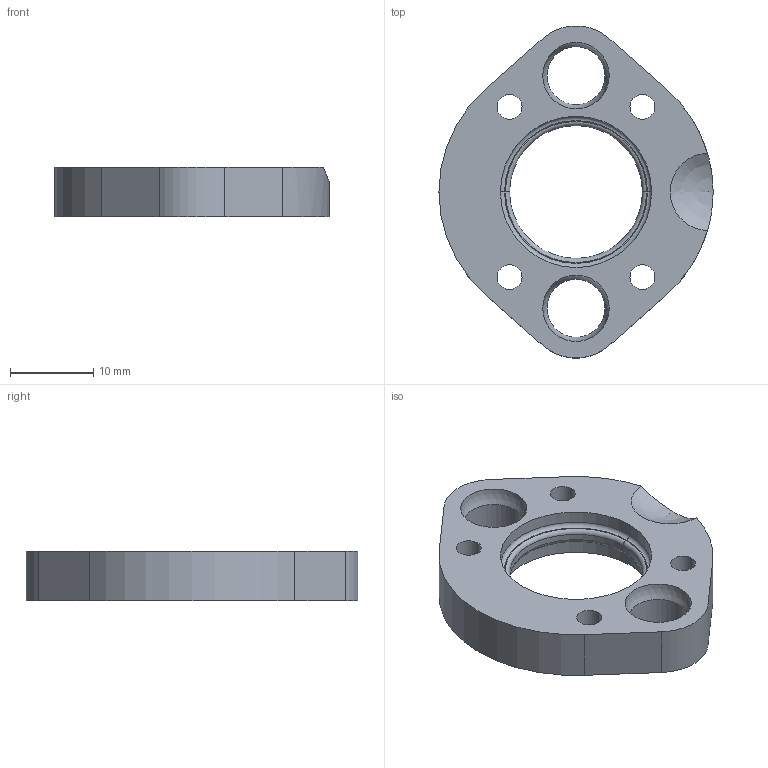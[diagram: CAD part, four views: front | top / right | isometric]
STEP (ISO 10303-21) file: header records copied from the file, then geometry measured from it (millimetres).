
FILE_DESCRIPTION (( 'STEP AP214' ), '1' );
FILE_NAME ('Ì44_ÏÌ_Äèñê ÌÓÄ.STEP', '2019-03-21T14:25:54', ( '' ), ( '' ), 'SwSTEP 2.0', 'SolidWorks 2018', '' );
FILE_SCHEMA (( 'AUTOMOTIVE_DESIGN' ));
Length unit declared in the file: millimetre
Products named in the file (1): Ì44_ÏÌ_Äèñê ÌÓÄ
Bounding box: 33 x 39.96 x 6 mm (x, y, z)
Volume: 3418.6 mm3; surface area: 2668.7 mm2
Topology: 1 solids, 1 shells, 42 faces, 109 edges, 70 vertices
Faces by surface type: cylinder 23, torus 8, plane 8, sphere 3
Entity records: 1363 total; most frequent: DIRECTION 255, CARTESIAN_POINT 237, ORIENTED_EDGE 208, AXIS2_PLACEMENT_3D 110, EDGE_CURVE 104, VERTEX_POINT 68, CIRCLE 67, EDGE_LOOP 60
